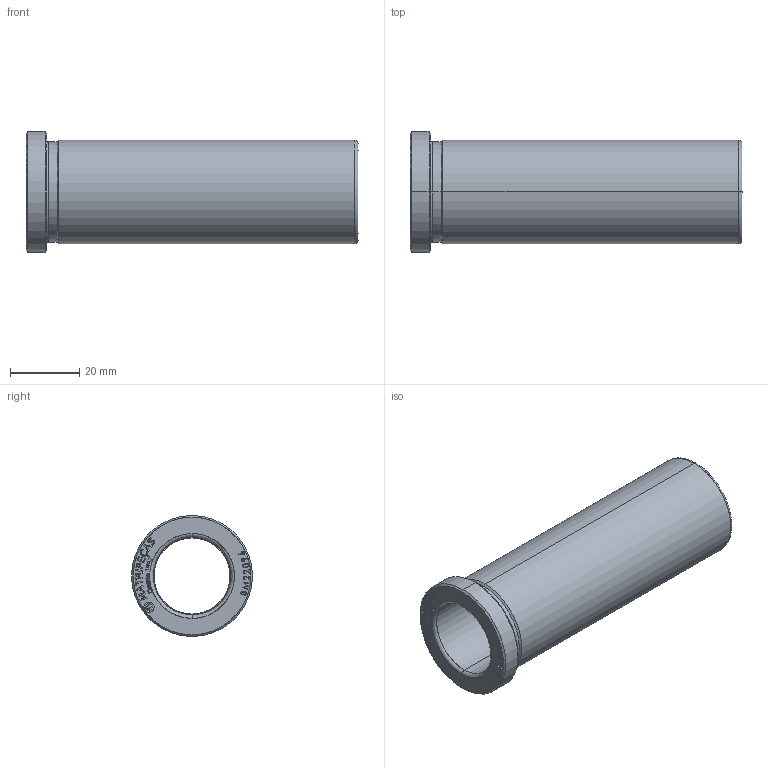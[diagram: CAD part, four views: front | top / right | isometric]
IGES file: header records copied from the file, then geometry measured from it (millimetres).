
Start section: SolidWorks IGES file using analytic representation for surfaces
Global section: file name: C:\Users\evers\OneDrive\Área de Trabalho\Trivector\MATRIPEÇAS\BM - BUCHA PRINCIPAL TIPO E31\BM22096.IGS; native system: SolidWorks 2024; preprocessor: SolidWorks 2024; author: evers; date: 260901.102046; units: millimetre
Bounding box: 96 x 35 x 35 mm (x, y, z)
Surface area: 16917.5 mm2 (no closed solid volume)
Topology: 0 solids, 0 shells, 417 faces, 4668 edges, 4668 vertices
Faces by surface type: bspline 380, revolution 37
